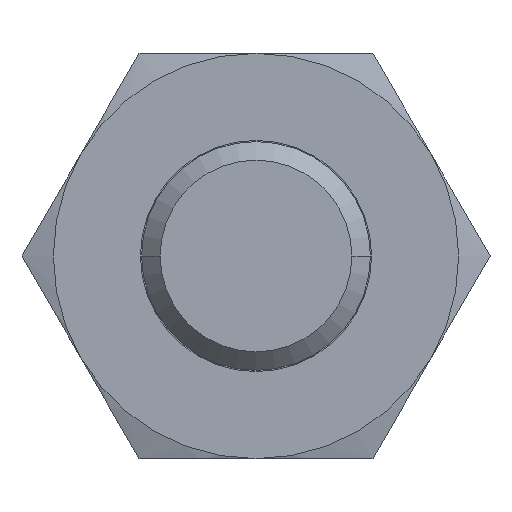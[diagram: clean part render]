
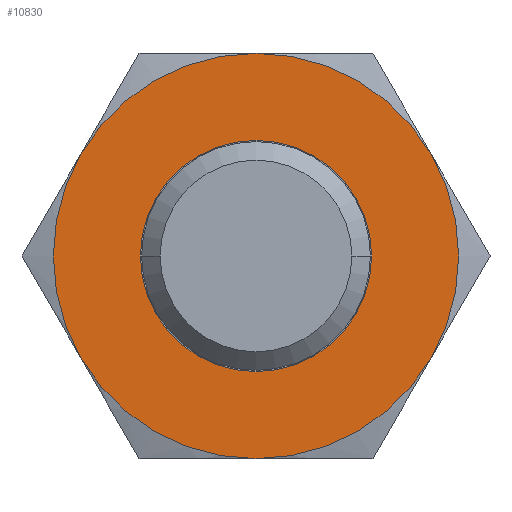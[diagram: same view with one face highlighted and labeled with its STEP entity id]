
A CAD part, left-side view. The second image highlights one B-rep face of the part: STEP entity #10830.
In plain terms, the highlighted free-form (B-spline) face has degree [1, 1] with [2, 2] control points.
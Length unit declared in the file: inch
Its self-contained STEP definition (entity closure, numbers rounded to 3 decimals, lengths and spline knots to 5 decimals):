
#3436=CARTESIAN_POINT('',(-0.2475,0.0,-0.4375));
#3437=VERTEX_POINT('',#3436);
#3471=CARTESIAN_POINT('',(-0.2475,0.,0.4375));
#3472=VERTEX_POINT('',#3471);
#3479=CARTESIAN_POINT('',(-0.2475,0.0,0.0));
#3480=DIRECTION('',(-1.0,0.0,0.0));
#3481=DIRECTION('',(0.0,0.0,-1.0));
#3482=AXIS2_PLACEMENT_3D('',#3479,#3480,#3481);
#3483=CIRCLE('',#3482,0.4375);
#3484=EDGE_CURVE('',#3437,#3472,#3483,.T.);
#3916=CARTESIAN_POINT('',(-0.2475,0.2495,0.0));
#3917=VERTEX_POINT('',#3916);
#3926=CARTESIAN_POINT('',(-0.2475,-0.2495,0.));
#3927=VERTEX_POINT('',#3926);
#3928=CARTESIAN_POINT('',(-0.2475,0.0,0.0));
#3929=DIRECTION('',(-1.0,0.0,0.0));
#3930=DIRECTION('',(0.0,1.0,0.0));
#3931=AXIS2_PLACEMENT_3D('',#3928,#3929,#3930);
#3932=CIRCLE('',#3931,0.2495);
#3933=EDGE_CURVE('',#3917,#3927,#3932,.T.);
#9558=CARTESIAN_POINT('',(-0.2475,0.0,0.0));
#9559=DIRECTION('',(-1.0,0.0,0.0));
#9560=DIRECTION('',(0.0,1.0,0.0));
#9561=AXIS2_PLACEMENT_3D('',#9558,#9559,#9560);
#9562=CIRCLE('',#9561,0.2495);
#9563=EDGE_CURVE('',#3927,#3917,#9562,.T.);
#10803=CARTESIAN_POINT('',(-0.2475,0.0,0.0));
#10804=DIRECTION('',(-1.0,0.0,0.0));
#10805=DIRECTION('',(0.0,0.0,-1.0));
#10806=AXIS2_PLACEMENT_3D('',#10803,#10804,#10805);
#10807=CIRCLE('',#10806,0.4375);
#10808=EDGE_CURVE('',#3472,#3437,#10807,.T.);
#10817=CARTESIAN_POINT('',(-0.2475,0.4375,0.4375));
#10818=CARTESIAN_POINT('',(-0.2475,0.4375,-0.4375));
#10819=CARTESIAN_POINT('',(-0.2475,-0.4375,0.4375));
#10820=CARTESIAN_POINT('',(-0.2475,-0.4375,-0.4375));
#10821=B_SPLINE_SURFACE_WITH_KNOTS('',1,1,((#10817,#10819),(#10818,#10820)),.UNSPECIFIED.,.F.,.F.,.U.,(2,2),(2,2),(0.0,0.875),(0.0,0.875),.UNSPECIFIED.);
#10822=ORIENTED_EDGE('',*,*,#3484,.T.);
#10823=ORIENTED_EDGE('',*,*,#10808,.T.);
#10824=EDGE_LOOP('',(#10822,#10823));
#10825=FACE_OUTER_BOUND('',#10824,.T.);
#10826=ORIENTED_EDGE('',*,*,#3933,.F.);
#10827=ORIENTED_EDGE('',*,*,#9563,.F.);
#10828=EDGE_LOOP('',(#10826,#10827));
#10829=FACE_BOUND('',#10828,.T.);
#10830=ADVANCED_FACE('',(#10825,#10829),#10821,.T.);
